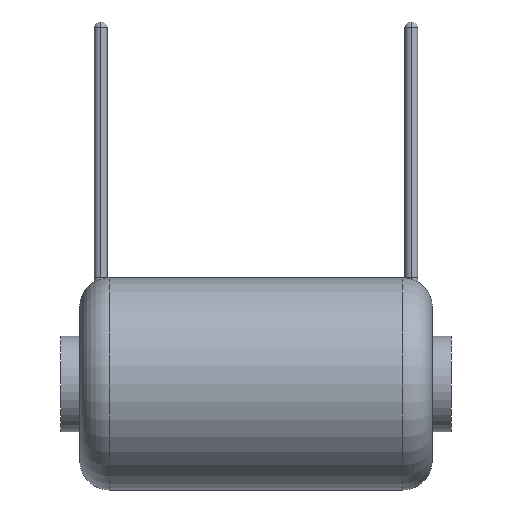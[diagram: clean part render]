
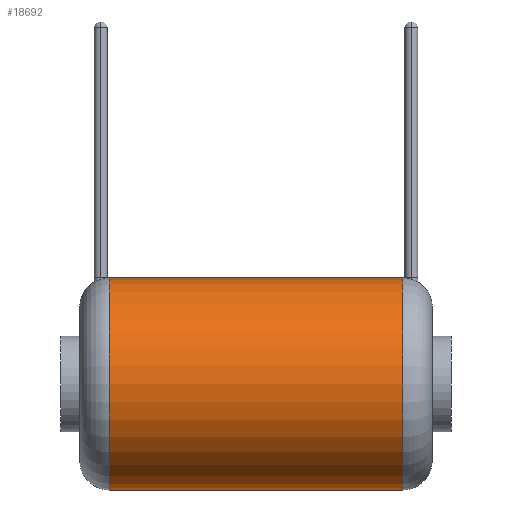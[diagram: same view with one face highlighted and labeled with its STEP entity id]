
A CAD part, left-side view. The second image highlights one B-rep face of the part: STEP entity #18692.
In plain terms, the highlighted cylindrical face has radius 10.84 mm (diameter 21.68 mm), a partial arc.
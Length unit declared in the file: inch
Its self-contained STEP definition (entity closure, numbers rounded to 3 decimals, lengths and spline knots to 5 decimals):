
#537 = VERTEX_POINT ( 'NONE', #7769 ) ;
#1073 = CARTESIAN_POINT ( 'NONE',  ( 0., 1.57148, 0. ) ) ;
#2488 = ORIENTED_EDGE ( 'NONE', *, *, #7885, .F. ) ;
#3019 = DIRECTION ( 'NONE',  ( 0., 0., 1. ) ) ;
#3152 = CARTESIAN_POINT ( 'NONE',  ( 0., 1.37671, 0. ) ) ;
#3651 = ORIENTED_EDGE ( 'NONE', *, *, #5797, .T. ) ;
#4101 = DIRECTION ( 'NONE',  ( 0., 0., 1. ) ) ;
#4280 = CARTESIAN_POINT ( 'NONE',  ( 0., 1.37671, 0.42676 ) ) ;
#5717 = DIRECTION ( 'NONE',  ( 0., 1., 0. ) ) ;
#5797 = EDGE_CURVE ( 'NONE', #14327, #13446, #8309, .T. ) ;
#6109 = AXIS2_PLACEMENT_3D ( 'NONE', #12818, #12177, #4101 ) ;
#6217 = AXIS2_PLACEMENT_3D ( 'NONE', #1073, #17510, #3019 ) ;
#6427 = ORIENTED_EDGE ( 'NONE', *, *, #15206, .T. ) ;
#7769 = CARTESIAN_POINT ( 'NONE',  ( 0., 0.19476, -0.42676 ) ) ;
#7885 = EDGE_CURVE ( 'NONE', #17639, #13446, #13415, .T. ) ;
#8309 = LINE ( 'NONE', #10883, #19246 ) ;
#9698 = CIRCLE ( 'NONE', #6109, 0.42676 ) ;
#10273 = DIRECTION ( 'NONE',  ( 0., 1., 0. ) ) ;
#10584 = EDGE_CURVE ( 'NONE', #537, #17639, #16783, .T. ) ;
#10691 = CARTESIAN_POINT ( 'NONE',  ( 0., 1.57148, -0.42676 ) ) ;
#10883 = CARTESIAN_POINT ( 'NONE',  ( 0., 1.57148, 0.42676 ) ) ;
#11736 = FACE_OUTER_BOUND ( 'NONE', #17311, .T. ) ;
#12177 = DIRECTION ( 'NONE',  ( 0., 1., 0. ) ) ;
#12818 = CARTESIAN_POINT ( 'NONE',  ( 0., 0.19476, 0. ) ) ;
#13238 = DIRECTION ( 'NONE',  ( 0., 1., 0. ) ) ;
#13415 = CIRCLE ( 'NONE', #18849, 0.42676 ) ;
#13446 = VERTEX_POINT ( 'NONE', #4280 ) ;
#13650 = VECTOR ( 'NONE', #13238, 39.37008 ) ;
#13903 = CARTESIAN_POINT ( 'NONE',  ( 0., 1.37671, -0.42676 ) ) ;
#14327 = VERTEX_POINT ( 'NONE', #18010 ) ;
#14451 = DIRECTION ( 'NONE',  ( 0., 0., 1. ) ) ;
#14953 = CYLINDRICAL_SURFACE ( 'NONE', #6217, 0.42676 ) ;
#15206 = EDGE_CURVE ( 'NONE', #537, #14327, #9698, .T. ) ;
#16346 = ORIENTED_EDGE ( 'NONE', *, *, #10584, .F. ) ;
#16783 = LINE ( 'NONE', #10691, #13650 ) ;
#17311 = EDGE_LOOP ( 'NONE', ( #16346, #6427, #3651, #2488 ) ) ;
#17510 = DIRECTION ( 'NONE',  ( 0., 1., 0. ) ) ;
#17639 = VERTEX_POINT ( 'NONE', #13903 ) ;
#18010 = CARTESIAN_POINT ( 'NONE',  ( 0., 0.19476, 0.42676 ) ) ;
#18692 = ADVANCED_FACE ( 'NONE', ( #11736 ), #14953, .T. ) ;
#18849 = AXIS2_PLACEMENT_3D ( 'NONE', #3152, #10273, #14451 ) ;
#19246 = VECTOR ( 'NONE', #5717, 39.37008 ) ;
